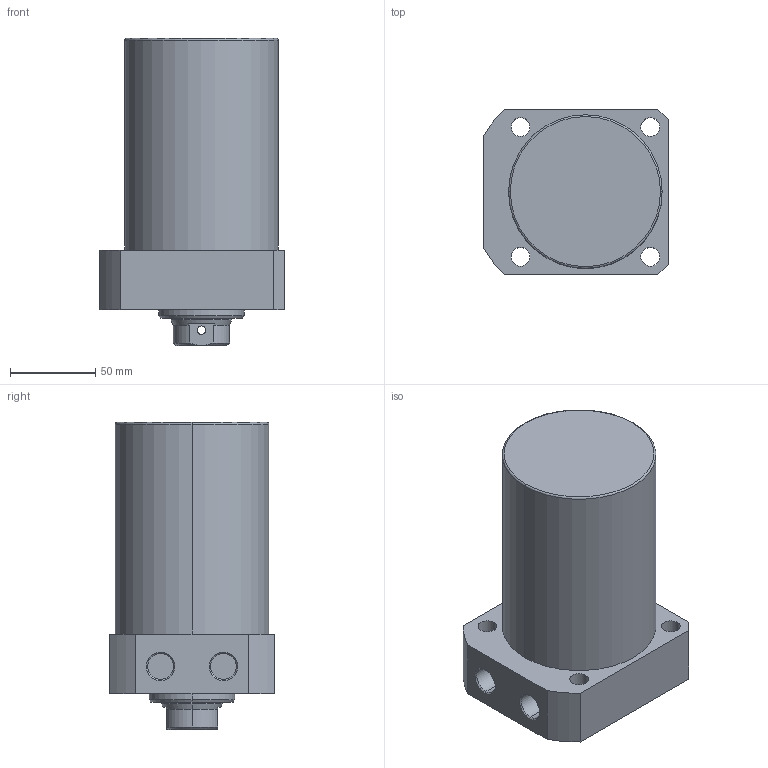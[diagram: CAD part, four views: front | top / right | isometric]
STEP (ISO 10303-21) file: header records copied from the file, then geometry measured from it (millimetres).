
FILE_DESCRIPTION (( 'STEP AP203' ), '1' );
FILE_NAME ('CLLR-090CB-080.STEP', '2019-12-18T06:12:02', ( '' ), ( '' ), 'SwSTEP 2.0', 'SolidWorks 2015', '' );
FILE_SCHEMA (( 'CONFIG_CONTROL_DESIGN' ));
Length unit declared in the file: millimetre
Products named in the file (1): CLLR-090CB-080
Bounding box: 108 x 97 x 180 mm (x, y, z)
Volume: 1137510.4 mm3; surface area: 80270.7 mm2
Topology: 1 solids, 1 shells, 69 faces, 163 edges, 102 vertices
Faces by surface type: cylinder 33, plane 19, cone 15, torus 2
Entity records: 2229 total; most frequent: CARTESIAN_POINT 497, DIRECTION 370, ORIENTED_EDGE 322, EDGE_CURVE 161, AXIS2_PLACEMENT_3D 151, VERTEX_POINT 102, EDGE_LOOP 89, CIRCLE 81
